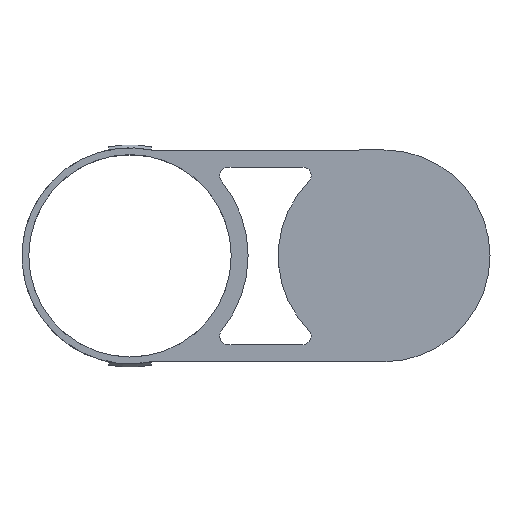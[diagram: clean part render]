
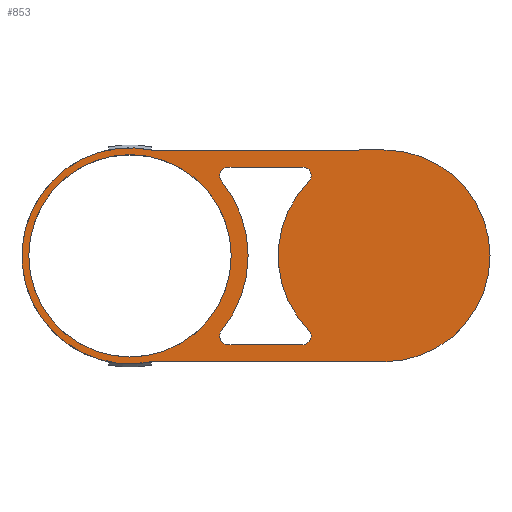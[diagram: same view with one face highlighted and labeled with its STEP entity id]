
A CAD part, top view. The second image highlights one B-rep face of the part: STEP entity #853.
In plain terms, the highlighted planar face has unit normal (0, 0, 1).
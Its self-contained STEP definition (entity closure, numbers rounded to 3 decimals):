
#166=VECTOR('',#1357,1.);
#167=VECTOR('',#1363,1.);
#169=VECTOR('',#1366,1.);
#170=VECTOR('',#1368,1.);
#222=LINE('',#1164,#166);
#223=LINE('',#1168,#167);
#225=LINE('',#1172,#169);
#226=LINE('',#1174,#170);
#246=PLANE('',#932);
#290=VERTEX_POINT('',#1000);
#291=VERTEX_POINT('',#1002);
#318=VERTEX_POINT('',#1100);
#325=VERTEX_POINT('',#1139);
#326=VERTEX_POINT('',#1141);
#327=VERTEX_POINT('',#1145);
#328=VERTEX_POINT('',#1147);
#329=VERTEX_POINT('',#1151);
#330=VERTEX_POINT('',#1153);
#331=VERTEX_POINT('',#1157);
#332=VERTEX_POINT('',#1159);
#333=VERTEX_POINT('',#1171);
#334=VERTEX_POINT('',#1175);
#354=CIRCLE('',#877,25.5);
#365=CIRCLE('',#902,23.9);
#369=CIRCLE('',#915,2.);
#370=CIRCLE('',#917,2.);
#371=CIRCLE('',#919,2.);
#372=CIRCLE('',#921,2.);
#373=CIRCLE('',#923,27.9);
#374=CIRCLE('',#926,25.);
#375=CIRCLE('',#931,25.);
#408=EDGE_CURVE('',#290,#291,#354,.T.);
#452=EDGE_CURVE('',#318,#318,#365,.T.);
#468=EDGE_CURVE('',#325,#326,#369,.T.);
#471=EDGE_CURVE('',#327,#328,#370,.T.);
#474=EDGE_CURVE('',#329,#330,#371,.T.);
#477=EDGE_CURVE('',#331,#332,#372,.T.);
#479=EDGE_CURVE('',#325,#332,#373,.T.);
#480=EDGE_CURVE('',#327,#326,#222,.T.);
#481=EDGE_CURVE('',#329,#328,#374,.T.);
#482=EDGE_CURVE('',#331,#330,#223,.T.);
#484=EDGE_CURVE('',#333,#290,#225,.T.);
#485=EDGE_CURVE('',#291,#334,#226,.T.);
#487=EDGE_CURVE('',#333,#334,#375,.T.);
#699=ORIENTED_EDGE('',*,*,#479,.T.);
#700=ORIENTED_EDGE('',*,*,#477,.F.);
#701=ORIENTED_EDGE('',*,*,#482,.T.);
#702=ORIENTED_EDGE('',*,*,#474,.F.);
#703=ORIENTED_EDGE('',*,*,#481,.T.);
#704=ORIENTED_EDGE('',*,*,#471,.F.);
#705=ORIENTED_EDGE('',*,*,#480,.T.);
#706=ORIENTED_EDGE('',*,*,#468,.F.);
#707=ORIENTED_EDGE('',*,*,#408,.F.);
#708=ORIENTED_EDGE('',*,*,#484,.F.);
#709=ORIENTED_EDGE('',*,*,#487,.T.);
#710=ORIENTED_EDGE('',*,*,#485,.F.);
#711=ORIENTED_EDGE('',*,*,#452,.F.);
#759=EDGE_LOOP('',(#699,#700,#701,#702,#703,#704,#705,#706));
#760=EDGE_LOOP('',(#707,#708,#709,#710));
#761=EDGE_LOOP('',(#711));
#809=FACE_BOUND('',#759,.T.);
#810=FACE_BOUND('',#760,.T.);
#811=FACE_BOUND('',#761,.T.);
#853=ADVANCED_FACE('',(#809,#810,#811),#246,.T.);
#877=AXIS2_PLACEMENT_3D('',#1001,#1238,#1239);
#902=AXIS2_PLACEMENT_3D('',#1099,#1302,#1303);
#915=AXIS2_PLACEMENT_3D('',#1140,#1331,#1332);
#917=AXIS2_PLACEMENT_3D('',#1146,#1337,#1338);
#919=AXIS2_PLACEMENT_3D('',#1152,#1343,#1344);
#921=AXIS2_PLACEMENT_3D('',#1158,#1349,#1350);
#923=AXIS2_PLACEMENT_3D('',#1162,#1354,#1355);
#926=AXIS2_PLACEMENT_3D('',#1166,#1360,#1361);
#931=AXIS2_PLACEMENT_3D('',#1178,#1372,#1373);
#932=AXIS2_PLACEMENT_3D('',#1179,#1374,$);
#1000=CARTESIAN_POINT('',(5.458,-24.909,22.6));
#1001=CARTESIAN_POINT('',(0.,0.,22.6));
#1002=CARTESIAN_POINT('',(5.458,24.909,22.6));
#1099=CARTESIAN_POINT('',(0.,0.,22.6));
#1100=CARTESIAN_POINT('',(23.9,0.,22.6));
#1139=CARTESIAN_POINT('',(21.59,-17.672,22.6));
#1140=CARTESIAN_POINT('',(23.137,-18.939,22.6));
#1141=CARTESIAN_POINT('',(23.134,-20.939,22.6));
#1145=CARTESIAN_POINT('',(40.782,-20.968,22.6));
#1146=CARTESIAN_POINT('',(40.785,-18.968,22.6));
#1147=CARTESIAN_POINT('',(42.208,-17.563,22.6));
#1151=CARTESIAN_POINT('',(42.208,17.563,22.6));
#1152=CARTESIAN_POINT('',(40.785,18.968,22.6));
#1153=CARTESIAN_POINT('',(40.782,20.968,22.6));
#1157=CARTESIAN_POINT('',(23.134,20.939,22.6));
#1158=CARTESIAN_POINT('',(23.137,18.939,22.6));
#1159=CARTESIAN_POINT('',(21.59,17.672,22.6));
#1162=CARTESIAN_POINT('',(0.,0.,22.6));
#1164=CARTESIAN_POINT('',(16.195,-20.927,22.6));
#1166=CARTESIAN_POINT('',(60.,0.,22.6));
#1168=CARTESIAN_POINT('',(16.195,20.927,22.6));
#1171=CARTESIAN_POINT('',(59.958,-25.,22.6));
#1172=CARTESIAN_POINT('',(59.958,-25.,22.6));
#1174=CARTESIAN_POINT('',(-0.041,24.9,22.6));
#1175=CARTESIAN_POINT('',(59.958,25.,22.6));
#1178=CARTESIAN_POINT('',(60.,0.,22.6));
#1179=CARTESIAN_POINT('',(0.,0.,22.6));
#1238=DIRECTION('',(0.,0.,-1.));
#1239=DIRECTION('',(25.5,0.,0.));
#1302=DIRECTION('',(0.,0.,1.));
#1303=DIRECTION('',(23.9,0.,0.));
#1331=DIRECTION('',(0.,0.,1.));
#1332=DIRECTION('',(-1.808,-0.855,0.));
#1337=DIRECTION('',(0.,0.,1.));
#1338=DIRECTION('',(1.845,-0.773,0.));
#1343=DIRECTION('',(0.,0.,1.));
#1344=DIRECTION('',(1.845,0.773,0.));
#1349=DIRECTION('',(0.,0.,1.));
#1350=DIRECTION('',(-1.808,0.855,0.));
#1354=DIRECTION('',(0.,0.,1.));
#1355=DIRECTION('',(27.9,0.,0.));
#1357=DIRECTION('',(-1.,0.002,0.));
#1360=DIRECTION('',(0.,0.,1.));
#1361=DIRECTION('',(25.,0.,0.));
#1363=DIRECTION('',(1.,0.002,0.));
#1366=DIRECTION('',(-1.,0.002,0.));
#1368=DIRECTION('',(1.,0.002,0.));
#1372=DIRECTION('',(0.,0.,1.));
#1373=DIRECTION('',(25.,0.,0.));
#1374=DIRECTION('',(0.,0.,1.));
